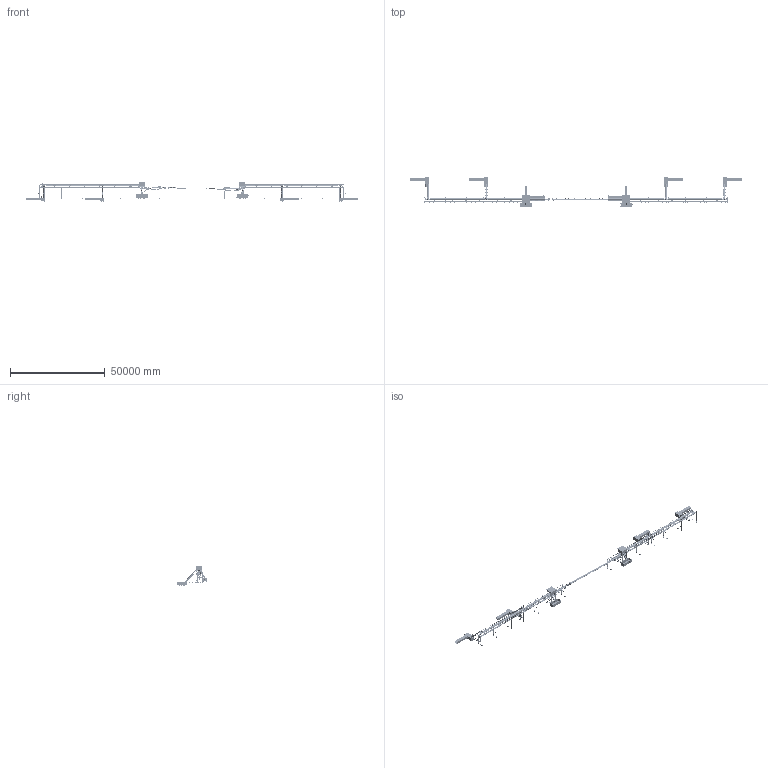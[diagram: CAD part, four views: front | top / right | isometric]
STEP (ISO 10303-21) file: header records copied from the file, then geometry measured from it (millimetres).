
FILE_DESCRIPTION(('Open CASCADE Model'),'2;1');
FILE_NAME('Open CASCADE Shape Model','2026-11-20T01:15:23',('Author'),( 'Open CASCADE'),'Open CASCADE STEP processor 7.9','Open CASCADE 7.9' ,'Unknown');
FILE_SCHEMA(('AUTOMOTIVE_DESIGN { 1 0 10303 214 1 1 1 1 }'));
Length unit declared in the file: millimetre
Products named in the file (318): Granja_integrada_Transporte_de_guano; Transporte_de_guano; CT-1_1; CT-1_4; CT-1_5; CT-1_7; CT-1_10; CT-1_11; CT-1_13; CT-1_15; CT-1_61; CT-1_62; CT-1_70; CT-1_71; CT-1_73; CT-1_74; CT-1_75; CT-1_76; CT-1_78; CT-1_79; CT-1_80; CT-1_81; BulÃ³n_M16_1; CT-1_82; CT-1_83; CT-1_85; CT-1_86; CT-1_87; M121_1; M121_2; M121_4; M121_5; M121_6; M121_7; M121_8; M121_9; M121_10; M121_11; M121_12; M121_13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
Assembly tree (6131 placements, depth 3):
  Granja_integrada_Transporte_de_guano
    Transporte_de_guano
      CT-1_1  x12
      CT-1_4  x4
      CT-1_5  x8
      CT-1_7  x501
      CT-1_10  x167
      CT-1_11  x334
      CT-1_13  x334
      CT-1_15  x143
      CT-1_61  x63
      CT-1_62  x270
      CT-1_70  x8
      CT-1_71  x16
      CT-1_73  x8
      CT-1_74  x8
      CT-1_75  x8
      CT-1_76  x24
      CT-1_78  x8
      CT-1_79  x16
      CT-1_80  x16
      CT-1_81  x16
      BulÃ³n_M16_1  x48
      CT-1_82  x24
      CT-1_83  x48
      CT-1_85  x24
      CT-1_86  x24
      CT-1_87  x24
      M121_1  x4
      M121_2  x8
      M121_4  x12
      M121_5  x12
      M121_6  x4
      M121_7  x4
      M121_8  x4
      M121_9  x4
      M121_10  x4
      M121_11  x4
      M121_12  x4
      M121_13  x4
      M121_14  x4
      M121_15  x4
      CT-1_97  x8
      CT-1_98  x12
      CT-1_99  x8
      CT-1_100  x8
      CT-1_101  x8
      CT-1_102  x8
      CT-1_103  x2
      CT-1_104  x8
      LSH-CT-1_1  x12
      SSL-CT-1_1  x12
      ZS-CT-1_1  x70
      XA-CT-1_1  x12
      CI-1_1  x4
      CI-1_2  x8
      CI-1_4  x220
      CI-1_15  x4
      CI-1_16  x8
      CI-1_18  x16
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Bounding box: 175510 x 16025 x 10510 mm (x, y, z)
Volume: 84962814093 mm3; surface area: 4606277988.6 mm2
Topology: 7915 solids, 7915 shells, 44566 faces, 86328 edges, 57552 vertices
Faces by surface type: plane 40638, cylinder 3824, bspline 48, offset 30, sphere 26
Full cylindrical faces by diameter (mm): 6 x4, 8 x24, 10 x4, 12 x256, 12.6 x6, 14 x6, 14.4 x5, 16 x60, 16.2 x3, 18 x16, 19 x5, 20 x824, 24 x7, 25.2 x256, 28 x90, 28.5 x32, 30 x16, 33.6 x48, 33.7 x32, 37 x152, 40 x4, 41.9 x12, 42 x128, 42.2 x152, 44 x12, 48.3 x12, 50 x14, 53.9 x12, 60 x48, 60.3 x12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
Entity records: 116661 total; most frequent: DIRECTION 21610, CARTESIAN_POINT 19822, ORIENTED_EDGE 9324, AXIS2_PLACEMENT_3D 8689, PRODUCT_DEFINITION_SHAPE 6449, CONTEXT_DEPENDENT_SHAPE_REPRESENTATION 6131, ITEM_DEFINED_TRANSFORMATION 6131, NEXT_ASSEMBLY_USAGE_OCCURRENCE 6131
